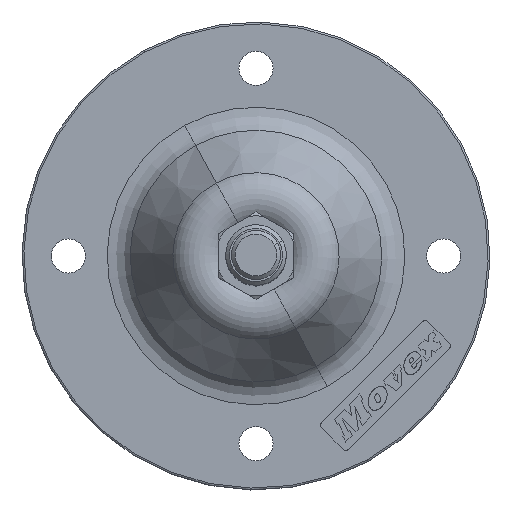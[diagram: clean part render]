
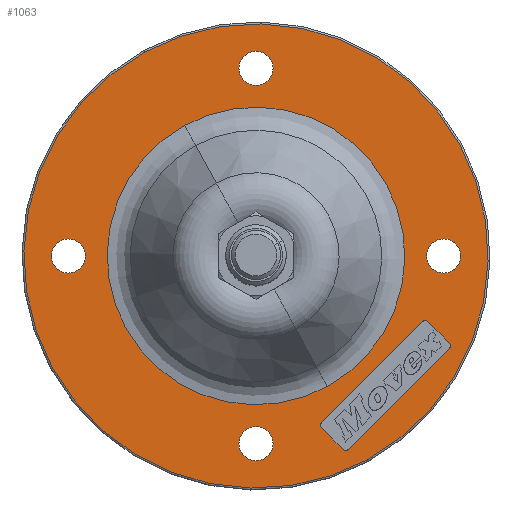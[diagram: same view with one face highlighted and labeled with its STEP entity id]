
A CAD part, top view. The second image highlights one B-rep face of the part: STEP entity #1063.
In plain terms, the highlighted planar face has unit normal (0, 0, 1).
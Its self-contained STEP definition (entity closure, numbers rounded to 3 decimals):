
#80=CARTESIAN_POINT('Vertex',(-54.,0.,3.)) ;
#83=CARTESIAN_POINT('Axis2P3D Location',(-49.5,0.,3.)) ;
#87=CARTESIAN_POINT('Vertex',(-45.,0.,3.)) ;
#107=CARTESIAN_POINT('Axis2P3D Location',(-49.5,0.,3.)) ;
#128=CARTESIAN_POINT('Vertex',(29.365,-53.752,3.)) ;
#144=CARTESIAN_POINT('Vertex',(-29.365,53.752,3.)) ;
#147=CARTESIAN_POINT('Axis2P3D Location',(0.,0.,3.)) ;
#169=CARTESIAN_POINT('Axis2P3D Location',(0.,0.,3.)) ;
#733=CARTESIAN_POINT('Vertex',(-18.817,34.444,3.)) ;
#740=CARTESIAN_POINT('Vertex',(18.817,-34.444,3.)) ;
#743=CARTESIAN_POINT('Axis2P3D Location',(0.,0.,3.)) ;
#755=CARTESIAN_POINT('Axis2P3D Location',(0.,0.,3.)) ;
#785=CARTESIAN_POINT('Vertex',(45.,0.,3.)) ;
#788=CARTESIAN_POINT('Axis2P3D Location',(49.5,0.,3.)) ;
#792=CARTESIAN_POINT('Vertex',(54.,0.,3.)) ;
#812=CARTESIAN_POINT('Axis2P3D Location',(49.5,0.,3.)) ;
#891=CARTESIAN_POINT('Vertex',(0.,54.,3.)) ;
#894=CARTESIAN_POINT('Axis2P3D Location',(0.,49.5,3.)) ;
#898=CARTESIAN_POINT('Vertex',(0.,45.,3.)) ;
#913=CARTESIAN_POINT('Axis2P3D Location',(0.,49.5,3.)) ;
#934=CARTESIAN_POINT('Vertex',(0.,-45.,3.)) ;
#937=CARTESIAN_POINT('Axis2P3D Location',(0.,-49.5,3.)) ;
#941=CARTESIAN_POINT('Vertex',(0.,-54.,3.)) ;
#956=CARTESIAN_POINT('Axis2P3D Location',(0.,-49.5,3.)) ;
#968=CARTESIAN_POINT('Axis2P3D Location',(0.,61.75,3.)) ;
#997=CARTESIAN_POINT('Axis2P3D Location',(50.373,-23.643,3.)) ;
#1001=CARTESIAN_POINT('Vertex',(51.009,-24.28,3.)) ;
#1003=CARTESIAN_POINT('Vertex',(51.009,-23.007,3.)) ;
#1006=CARTESIAN_POINT('Line Origine',(37.645,-37.644,3.)) ;
#1010=CARTESIAN_POINT('Vertex',(24.281,-51.008,3.)) ;
#1013=CARTESIAN_POINT('Axis2P3D Location',(23.644,-50.372,3.)) ;
#1017=CARTESIAN_POINT('Vertex',(23.008,-51.008,3.)) ;
#1020=CARTESIAN_POINT('Line Origine',(20.144,-48.145,3.)) ;
#1024=CARTESIAN_POINT('Vertex',(17.281,-45.281,3.)) ;
#1027=CARTESIAN_POINT('Axis2P3D Location',(17.917,-44.645,3.)) ;
#1031=CARTESIAN_POINT('Vertex',(17.281,-44.008,3.)) ;
#1034=CARTESIAN_POINT('Line Origine',(30.645,-30.644,3.)) ;
#1038=CARTESIAN_POINT('Vertex',(44.009,-17.28,3.)) ;
#1041=CARTESIAN_POINT('Axis2P3D Location',(44.646,-17.916,3.)) ;
#1045=CARTESIAN_POINT('Vertex',(45.282,-17.28,3.)) ;
#1048=CARTESIAN_POINT('Line Origine',(48.145,-20.143,3.)) ;
#84=DIRECTION('Axis2P3D Direction',(0.,0.,1.)) ;
#108=DIRECTION('Axis2P3D Direction',(0.,0.,1.)) ;
#148=DIRECTION('Axis2P3D Direction',(0.,0.,1.)) ;
#170=DIRECTION('Axis2P3D Direction',(0.,-0.,1.)) ;
#744=DIRECTION('Axis2P3D Direction',(0.,0.,1.)) ;
#756=DIRECTION('Axis2P3D Direction',(0.,0.,1.)) ;
#789=DIRECTION('Axis2P3D Direction',(0.,0.,1.)) ;
#813=DIRECTION('Axis2P3D Direction',(0.,0.,1.)) ;
#895=DIRECTION('Axis2P3D Direction',(0.,-0.,1.)) ;
#914=DIRECTION('Axis2P3D Direction',(0.,-0.,1.)) ;
#938=DIRECTION('Axis2P3D Direction',(0.,-0.,1.)) ;
#957=DIRECTION('Axis2P3D Direction',(0.,-0.,1.)) ;
#969=DIRECTION('Axis2P3D Direction',(0.,0.,1.)) ;
#970=DIRECTION('Axis2P3D XDirection',(1.,0.,0.)) ;
#998=DIRECTION('Axis2P3D Direction',(0.,0.,1.)) ;
#1007=DIRECTION('Vector Direction',(0.707,0.707,0.)) ;
#1014=DIRECTION('Axis2P3D Direction',(0.,0.,1.)) ;
#1021=DIRECTION('Vector Direction',(-0.707,0.707,0.)) ;
#1028=DIRECTION('Axis2P3D Direction',(0.,0.,1.)) ;
#1035=DIRECTION('Vector Direction',(0.707,0.707,0.)) ;
#1042=DIRECTION('Axis2P3D Direction',(0.,0.,1.)) ;
#1049=DIRECTION('Vector Direction',(0.707,-0.707,0.)) ;
#85=AXIS2_PLACEMENT_3D('Circle Axis2P3D',#83,#84,$) ;
#109=AXIS2_PLACEMENT_3D('Circle Axis2P3D',#107,#108,$) ;
#149=AXIS2_PLACEMENT_3D('Circle Axis2P3D',#147,#148,$) ;
#171=AXIS2_PLACEMENT_3D('Circle Axis2P3D',#169,#170,$) ;
#745=AXIS2_PLACEMENT_3D('Circle Axis2P3D',#743,#744,$) ;
#757=AXIS2_PLACEMENT_3D('Circle Axis2P3D',#755,#756,$) ;
#790=AXIS2_PLACEMENT_3D('Circle Axis2P3D',#788,#789,$) ;
#814=AXIS2_PLACEMENT_3D('Circle Axis2P3D',#812,#813,$) ;
#896=AXIS2_PLACEMENT_3D('Circle Axis2P3D',#894,#895,$) ;
#915=AXIS2_PLACEMENT_3D('Circle Axis2P3D',#913,#914,$) ;
#939=AXIS2_PLACEMENT_3D('Circle Axis2P3D',#937,#938,$) ;
#958=AXIS2_PLACEMENT_3D('Circle Axis2P3D',#956,#957,$) ;
#971=AXIS2_PLACEMENT_3D('Plane Axis2P3D',#968,#969,#970) ;
#999=AXIS2_PLACEMENT_3D('Circle Axis2P3D',#997,#998,$) ;
#1015=AXIS2_PLACEMENT_3D('Circle Axis2P3D',#1013,#1014,$) ;
#1029=AXIS2_PLACEMENT_3D('Circle Axis2P3D',#1027,#1028,$) ;
#1043=AXIS2_PLACEMENT_3D('Circle Axis2P3D',#1041,#1042,$) ;
#974=ORIENTED_EDGE('',*,*,#151,.T.) ;
#975=ORIENTED_EDGE('',*,*,#173,.T.) ;
#978=ORIENTED_EDGE('',*,*,#111,.F.) ;
#979=ORIENTED_EDGE('',*,*,#89,.F.) ;
#982=ORIENTED_EDGE('',*,*,#816,.F.) ;
#983=ORIENTED_EDGE('',*,*,#794,.F.) ;
#986=ORIENTED_EDGE('',*,*,#759,.F.) ;
#987=ORIENTED_EDGE('',*,*,#747,.F.) ;
#990=ORIENTED_EDGE('',*,*,#943,.F.) ;
#991=ORIENTED_EDGE('',*,*,#960,.F.) ;
#994=ORIENTED_EDGE('',*,*,#900,.F.) ;
#995=ORIENTED_EDGE('',*,*,#917,.F.) ;
#1054=ORIENTED_EDGE('',*,*,#1005,.F.) ;
#1055=ORIENTED_EDGE('',*,*,#1012,.F.) ;
#1056=ORIENTED_EDGE('',*,*,#1019,.F.) ;
#1057=ORIENTED_EDGE('',*,*,#1026,.F.) ;
#1058=ORIENTED_EDGE('',*,*,#1033,.F.) ;
#1059=ORIENTED_EDGE('',*,*,#1040,.F.) ;
#1060=ORIENTED_EDGE('',*,*,#1047,.F.) ;
#1061=ORIENTED_EDGE('',*,*,#1052,.F.) ;
#980=FACE_BOUND('',#977,.T.) ;
#984=FACE_BOUND('',#981,.T.) ;
#988=FACE_BOUND('',#985,.T.) ;
#992=FACE_BOUND('',#989,.T.) ;
#996=FACE_BOUND('',#993,.T.) ;
#1062=FACE_BOUND('',#1053,.T.) ;
#1008=VECTOR('Line Direction',#1007,1.) ;
#1022=VECTOR('Line Direction',#1021,1.) ;
#1036=VECTOR('Line Direction',#1035,1.) ;
#1050=VECTOR('Line Direction',#1049,1.) ;
#1063=ADVANCED_FACE('PartBody',(#976,#980,#984,#988,#992,#996,#1062),#972,.T.) ;
#86=CIRCLE('generated circle',#85,4.5) ;
#110=CIRCLE('generated circle',#109,4.5) ;
#150=CIRCLE('generated circle',#149,61.25) ;
#172=CIRCLE('generated circle',#171,61.25) ;
#746=CIRCLE('generated circle',#745,39.249) ;
#758=CIRCLE('generated circle',#757,39.249) ;
#791=CIRCLE('generated circle',#790,4.5) ;
#815=CIRCLE('generated circle',#814,4.5) ;
#897=CIRCLE('generated circle',#896,4.5) ;
#916=CIRCLE('generated circle',#915,4.5) ;
#940=CIRCLE('generated circle',#939,4.5) ;
#959=CIRCLE('generated circle',#958,4.5) ;
#1000=CIRCLE('generated circle',#999,0.9) ;
#1016=CIRCLE('generated circle',#1015,0.9) ;
#1030=CIRCLE('generated circle',#1029,0.9) ;
#1044=CIRCLE('generated circle',#1043,0.9) ;
#89=EDGE_CURVE('',#81,#88,#86,.T.) ;
#111=EDGE_CURVE('',#88,#81,#110,.T.) ;
#151=EDGE_CURVE('',#129,#145,#150,.T.) ;
#173=EDGE_CURVE('',#145,#129,#172,.T.) ;
#747=EDGE_CURVE('',#741,#734,#746,.T.) ;
#759=EDGE_CURVE('',#734,#741,#758,.T.) ;
#794=EDGE_CURVE('',#786,#793,#791,.T.) ;
#816=EDGE_CURVE('',#793,#786,#815,.T.) ;
#900=EDGE_CURVE('',#892,#899,#897,.T.) ;
#917=EDGE_CURVE('',#899,#892,#916,.T.) ;
#943=EDGE_CURVE('',#935,#942,#940,.T.) ;
#960=EDGE_CURVE('',#942,#935,#959,.T.) ;
#1005=EDGE_CURVE('',#1002,#1004,#1000,.T.) ;
#1012=EDGE_CURVE('',#1011,#1002,#1009,.T.) ;
#1019=EDGE_CURVE('',#1018,#1011,#1016,.T.) ;
#1026=EDGE_CURVE('',#1025,#1018,#1023,.F.) ;
#1033=EDGE_CURVE('',#1032,#1025,#1030,.T.) ;
#1040=EDGE_CURVE('',#1039,#1032,#1037,.F.) ;
#1047=EDGE_CURVE('',#1046,#1039,#1044,.T.) ;
#1052=EDGE_CURVE('',#1004,#1046,#1051,.F.) ;
#973=EDGE_LOOP('',(#974,#975)) ;
#977=EDGE_LOOP('',(#978,#979)) ;
#981=EDGE_LOOP('',(#982,#983)) ;
#985=EDGE_LOOP('',(#986,#987)) ;
#989=EDGE_LOOP('',(#990,#991)) ;
#993=EDGE_LOOP('',(#994,#995)) ;
#1053=EDGE_LOOP('',(#1054,#1055,#1056,#1057,#1058,#1059,#1060,#1061)) ;
#976=FACE_OUTER_BOUND('',#973,.T.) ;
#1009=LINE('Line',#1006,#1008) ;
#1023=LINE('Line',#1020,#1022) ;
#1037=LINE('Line',#1034,#1036) ;
#1051=LINE('Line',#1048,#1050) ;
#972=PLANE('',#971) ;
#81=VERTEX_POINT('',#80) ;
#88=VERTEX_POINT('',#87) ;
#129=VERTEX_POINT('',#128) ;
#145=VERTEX_POINT('',#144) ;
#734=VERTEX_POINT('',#733) ;
#741=VERTEX_POINT('',#740) ;
#786=VERTEX_POINT('',#785) ;
#793=VERTEX_POINT('',#792) ;
#892=VERTEX_POINT('',#891) ;
#899=VERTEX_POINT('',#898) ;
#935=VERTEX_POINT('',#934) ;
#942=VERTEX_POINT('',#941) ;
#1002=VERTEX_POINT('',#1001) ;
#1004=VERTEX_POINT('',#1003) ;
#1011=VERTEX_POINT('',#1010) ;
#1018=VERTEX_POINT('',#1017) ;
#1025=VERTEX_POINT('',#1024) ;
#1032=VERTEX_POINT('',#1031) ;
#1039=VERTEX_POINT('',#1038) ;
#1046=VERTEX_POINT('',#1045) ;
